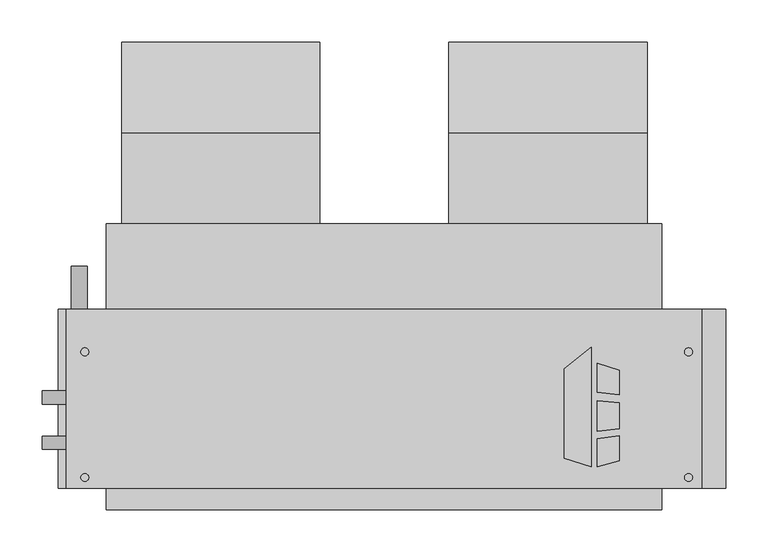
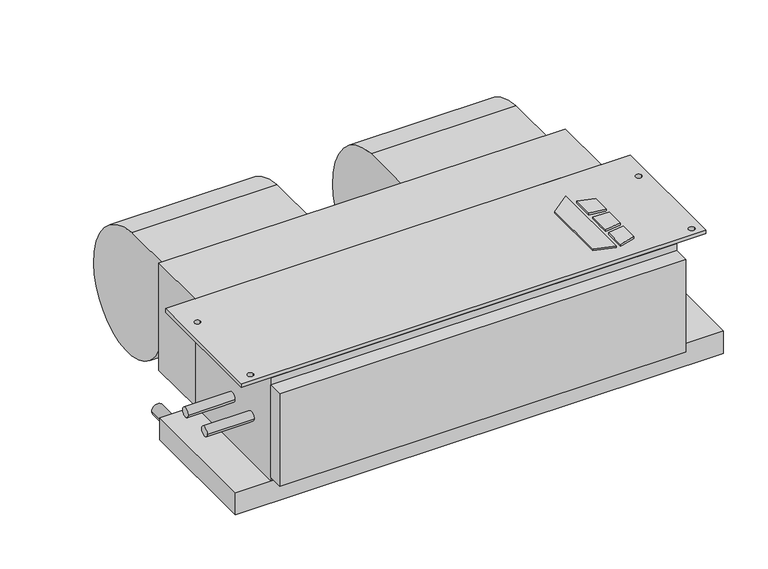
"""IFC4 building model written with IfcOpenShell, lengths in millimetres: proxy geometry, Concealed_Horizontal_Fan_Coil_Unit_-_CHY_-_IEC_-_2-Pipe_Cool-EHeat_LH_2022 : Size 04 - 277v/60Hz/1Ph - 4 Row 3.0kW."""

from ifc_helpers import new_model, si_unit, point, frame, frame_2d, origin, origin_with_axes, place, context, project, spatial, polyline, circle_curve, trimmed, segment, composite_curve, outline, extrude, source, transform, mapped, element, save


def mechanical_equipment_69a07cf0(model_context):
    return source(origin(), model_context, "Body", "SweptSolid", [
        extrude(outline(polyline([(366.4019761, -202.5703476), (398.9602728, -177.1330184), (398.9602728, -319.0875), (366.4019761, -308.8679201), (366.4019761, -202.5703476)])), origin_with_axes(), (0.0, 0.0, 1.0), 3.175),
        extrude(outline(polyline([(405.7186058, -230.442352), (405.7186058, -195.9624379), (431.8, -204.1490115), (431.8, -233.6447446), (405.7186058, -230.442352)])), origin_with_axes(), (0.0, 0.0, 1.0), 3.175),
        extrude(outline(polyline([(431.8, -312.0990115), (405.7186058, -319.0875), (405.7186058, -285.8661996), (431.8, -282.3243564), (431.8, -312.0990115)])), origin_with_axes(), (0.0, 0.0, 1.0), 3.175),
        extrude(outline(polyline([(431.8, -242.7263277), (431.8, -273.976483), (405.7186058, -276.717748), (405.7186058, -240.8600378), (431.8, -242.7263277)])), origin_with_axes(), (0.0, 0.0, 1.0), 3.175),
        extrude(outline(composite_curve([segment(trimmed(circle_curve(frame_2d((68.401169, -136.0299844)), 117.3559541), [point((77.7875, -19.05))], [point((185.7375, -138.176))], False, "CARTESIAN"), True, "CONTINUOUS"), segment(trimmed(circle_curve(frame_2d((90.0022663, -136.4250563)), 95.7512443), [point((185.7375, -138.176))], [point((77.7875, -231.394))], False, "CARTESIAN"), True, "CONTINUOUS"), segment(trimmed(circle_curve(frame_2d((89.9711869, -136.6666968)), 95.5076133), [point((77.7875, -231.394))], [point((-5.5245, -138.176))], False, "CARTESIAN"), True, "CONTINUOUS"), segment(trimmed(circle_curve(frame_2d((-24.6059828, -138.4775816)), 19.0838659), [point((-5.5245, -138.176))], [point((-17.7963373, -120.65))], True, "CARTESIAN"), True, "CONTINUOUS"), segment(polyline([(-17.7963373, -120.65), (-30.1625, -120.65), (-30.1625, -19.05), (77.7875, -19.05)]), True, "CONTINUOUS")], self_intersect=False)), frame((229.4255, 0.0, 0.0), z_axis=(1.0, 0.0, 0.0), x_axis=(0.0, 1.0, 0.0)), (0.0, 0.0, 1.0), 235.712),
        extrude(outline(composite_curve([segment(trimmed(circle_curve(frame_2d((68.401169, -136.0299844)), 117.3559541), [point((77.7875, -19.05))], [point((185.7375, -138.176))], False, "CARTESIAN"), True, "CONTINUOUS"), segment(trimmed(circle_curve(frame_2d((90.0022663, -136.4250563)), 95.7512443), [point((185.7375, -138.176))], [point((77.7875, -231.394))], False, "CARTESIAN"), True, "CONTINUOUS"), segment(trimmed(circle_curve(frame_2d((89.9711869, -136.6666968)), 95.5076133), [point((77.7875, -231.394))], [point((-5.5245, -138.176))], False, "CARTESIAN"), True, "CONTINUOUS"), segment(trimmed(circle_curve(frame_2d((-24.6059828, -138.4775816)), 19.0838659), [point((-5.5245, -138.176))], [point((-17.7963373, -120.65))], True, "CARTESIAN"), True, "CONTINUOUS"), segment(polyline([(-17.7963373, -120.65), (-30.1625, -120.65), (-30.1625, -19.05), (77.7875, -19.05)]), True, "CONTINUOUS")], self_intersect=False)), frame((-159.512, 0.0, 0.0), z_axis=(1.0, 0.0, 0.0), x_axis=(0.0, 1.0, 0.0)), (0.0, 0.0, 1.0), 235.712),
        extrude(outline(polyline([(530.225, -131.7625), (530.225, -344.4875), (-225.425, -344.4875), (-225.425, -131.7625), (530.225, -131.7625)]), holes=[composite_curve([segment(trimmed(circle_curve(frame_2d((-203.2, -182.5625)), 4.7625), [point((-207.9625, -182.5625))], [point((-198.4375, -182.5625))], True, "CARTESIAN"), True, "CONTINUOUS"), segment(trimmed(circle_curve(frame_2d((-203.2, -182.5625)), 4.7625), [point((-198.4375, -182.5625))], [point((-207.9625, -182.5625))], True, "CARTESIAN"), True, "CONTINUOUS")], self_intersect=False), composite_curve([segment(trimmed(circle_curve(frame_2d((-203.2, -331.7875)), 4.7625), [point((-207.9625, -331.7875))], [point((-198.4375, -331.7875))], True, "CARTESIAN"), True, "CONTINUOUS"), segment(trimmed(circle_curve(frame_2d((-203.2, -331.7875)), 4.7625), [point((-198.4375, -331.7875))], [point((-207.9625, -331.7875))], True, "CARTESIAN"), True, "CONTINUOUS")], self_intersect=False), composite_curve([segment(trimmed(circle_curve(frame_2d((514.35, -182.5625)), 4.7625), [point((509.5875, -182.5625))], [point((519.1125, -182.5625))], True, "CARTESIAN"), True, "CONTINUOUS"), segment(trimmed(circle_curve(frame_2d((514.35, -182.5625)), 4.7625), [point((519.1125, -182.5625))], [point((509.5875, -182.5625))], True, "CARTESIAN"), True, "CONTINUOUS")], self_intersect=False), composite_curve([segment(trimmed(circle_curve(frame_2d((514.35, -331.7875)), 4.7625), [point((509.5875, -331.7875))], [point((519.1125, -331.7875))], True, "CARTESIAN"), True, "CONTINUOUS"), segment(trimmed(circle_curve(frame_2d((514.35, -331.7875)), 4.7625), [point((519.1125, -331.7875))], [point((509.5875, -331.7875))], True, "CARTESIAN"), True, "CONTINUOUS")], self_intersect=False)]), frame((0.0, 0.0, -6.35), z_axis=(0.0, 0.0, 1.0), x_axis=(1.0, 0.0, 0.0)), (0.0, 0.0, 1.0), 6.35),
        extrude(outline(polyline([(-177.8, -30.1625), (482.6, -30.1625), (482.6, -131.7625), (-177.8, -131.7625), (-177.8, -30.1625)])), frame((0.0, 0.0, -184.15), z_axis=(0.0, 0.0, 1.0), x_axis=(1.0, 0.0, 0.0)), (0.0, 0.0, 1.0), 184.15),
        extrude(outline(composite_curve([segment(trimmed(circle_curve(frame_2d((-209.55, -209.55)), 9.525), [point((-209.55, -219.075))], [point((-209.55, -200.025))], False, "CARTESIAN"), True, "CONTINUOUS"), segment(trimmed(circle_curve(frame_2d((-209.55, -209.55)), 9.525), [point((-209.55, -200.025))], [point((-209.55, -219.075))], False, "CARTESIAN"), True, "CONTINUOUS")], self_intersect=False)), frame((0.0, -131.7625, 0.0), z_axis=(0.0, 1.0, 0.0), x_axis=(0.0, 0.0, 1.0)), (0.0, 0.0, 1.0), 50.8),
        extrude(outline(polyline([(482.6, -369.8875), (-177.8, -369.8875), (-177.8, -344.4875), (482.6, -344.4875), (482.6, -369.8875)])), frame((0.0, 0.0, -177.8), z_axis=(0.0, 0.0, 1.0), x_axis=(1.0, 0.0, 0.0)), (0.0, 0.0, 1.0), 158.75),
        extrude(outline(polyline([(558.8, -131.7625), (558.8, -344.4875), (-234.95, -344.4875), (-234.95, -131.7625), (558.8, -131.7625)])), frame((0.0, 0.0, -222.25), z_axis=(0.0, 0.0, 1.0), x_axis=(1.0, 0.0, 0.0)), (0.0, 0.0, 1.0), 38.1),
        extrude(outline(composite_curve([segment(trimmed(circle_curve(frame_2d((-290.5125, -104.775)), 7.9375), [point((-282.575, -104.775))], [point((-298.45, -104.775))], False, "CARTESIAN"), True, "CONTINUOUS"), segment(trimmed(circle_curve(frame_2d((-290.5125, -104.775)), 7.9375), [point((-298.45, -104.775))], [point((-282.575, -104.775))], False, "CARTESIAN"), True, "CONTINUOUS")], self_intersect=False)), frame((-254.0, 0.0, 0.0), z_axis=(1.0, 0.0, 0.0), x_axis=(0.0, 1.0, 0.0)), (0.0, 0.0, 1.0), 76.2),
        extrude(outline(composite_curve([segment(trimmed(circle_curve(frame_2d((-236.5375, -104.775)), 7.9375), [point((-228.6, -104.775))], [point((-244.475, -104.775))], False, "CARTESIAN"), True, "CONTINUOUS"), segment(trimmed(circle_curve(frame_2d((-236.5375, -104.775)), 7.9375), [point((-244.475, -104.775))], [point((-228.6, -104.775))], False, "CARTESIAN"), True, "CONTINUOUS")], self_intersect=False)), frame((-254.0, 0.0, 0.0), z_axis=(1.0, 0.0, 0.0), x_axis=(0.0, 1.0, 0.0)), (0.0, 0.0, 1.0), 76.2),
        extrude(outline(polyline([(482.6, -344.4875), (-177.8, -344.4875), (-177.8, -131.7625), (482.6, -131.7625), (482.6, -344.4875)])), frame((0.0, 0.0, -184.15), z_axis=(0.0, 0.0, 1.0), x_axis=(1.0, 0.0, 0.0)), (0.0, 0.0, 1.0), 177.8),
    ])


if __name__ == "__main__":
    model = new_model("IFC4")
    model_context = context("Model", 3, world=origin())
    ifc_project = project(units=[si_unit("LENGTHUNIT", "METRE", prefix="MILLI")], contexts=[model_context])
    site = spatial("IfcSite", under=ifc_project)
    building = spatial("IfcBuilding", under=site)
    placement = place(None, origin())
    mechanical_equipment_shape = mechanical_equipment_69a07cf0(model_context)
    element("IfcBuildingElementProxy", 1, Name="Concealed_Horizontal_Fan_Coil_Unit_-_CHY_-_IEC_-_2-Pipe_Cool-EHeat_LH_2022 : Size 04 - 277v/60Hz/1Ph - 4 Row 3.0kW", ObjectType="Concealed_Horizontal_Fan_Coil_Unit_-_CHY_-_IEC_-_2-Pipe_Cool-EHeat_LH_2022 : Size 04 - 277v/60Hz/1Ph - 4 Row 3.0kW", at=placement, inside=building, context=model_context, shape_type="MappedRepresentation", body=[
        mapped(mechanical_equipment_shape, transform((0.0, 0.0, 0.0), x_axis=(1.0, 0.0, 0.0), y_axis=(0.0, 1.0, 0.0), z_axis=(0.0, 0.0, 1.0))),
    ])
    save(model, "model.ifc")
